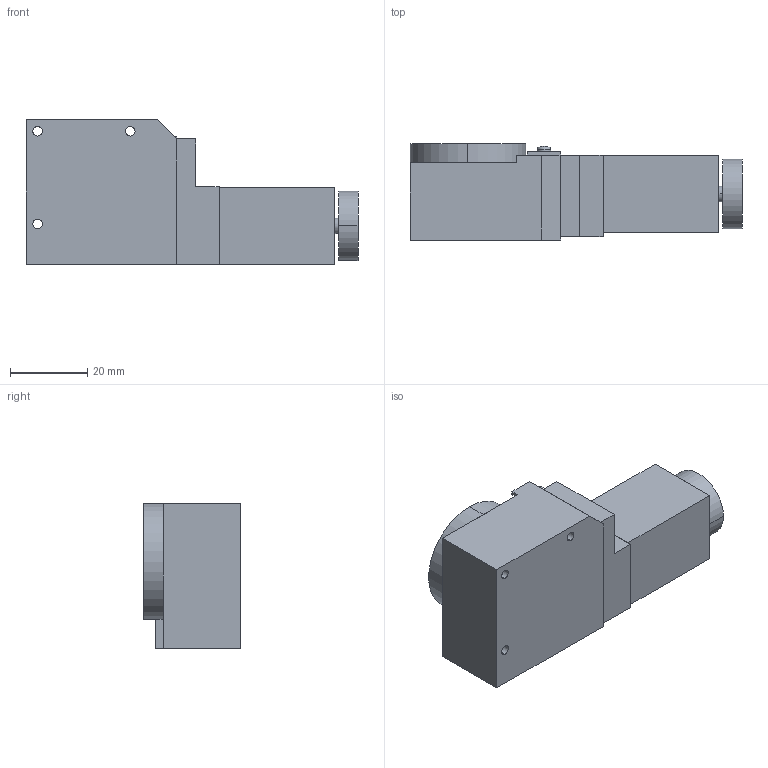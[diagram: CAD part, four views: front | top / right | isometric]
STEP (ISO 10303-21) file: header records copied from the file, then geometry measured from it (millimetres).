
FILE_DESCRIPTION (( 'STEP AP203' ), '1' );
FILE_NAME ('ARS-336-HM.STEP', '2008-04-10T11:29:24', ( '' ), ( '' ), 'SwSTEP 2.0', 'SolidWorks 2007', '' );
FILE_SCHEMA (( 'CONFIG_CONTROL_DESIGN' ));
Length unit declared in the file: millimetre
Products named in the file (3): ARS-336-HM-1; ARS-336-HM; ARS-336-HM-2
Assembly tree (2 placements, depth 2):
  ARS-336-HM
    ARS-336-HM-2
    ARS-336-HM-1
Bounding box: 86 x 25 x 37.5 mm (x, y, z)
Volume: 51641.9 mm3; surface area: 13473.8 mm2
Topology: 2 solids, 4 shells, 98 faces, 237 edges, 156 vertices
Faces by surface type: cylinder 45, plane 41, cone 4, torus 4, sphere 4
Entity records: 3242 total; most frequent: DIRECTION 559, CARTESIAN_POINT 496, ORIENTED_EDGE 474, EDGE_CURVE 237, AXIS2_PLACEMENT_3D 219, VERTEX_POINT 156, EDGE_LOOP 123, VECTOR 121
